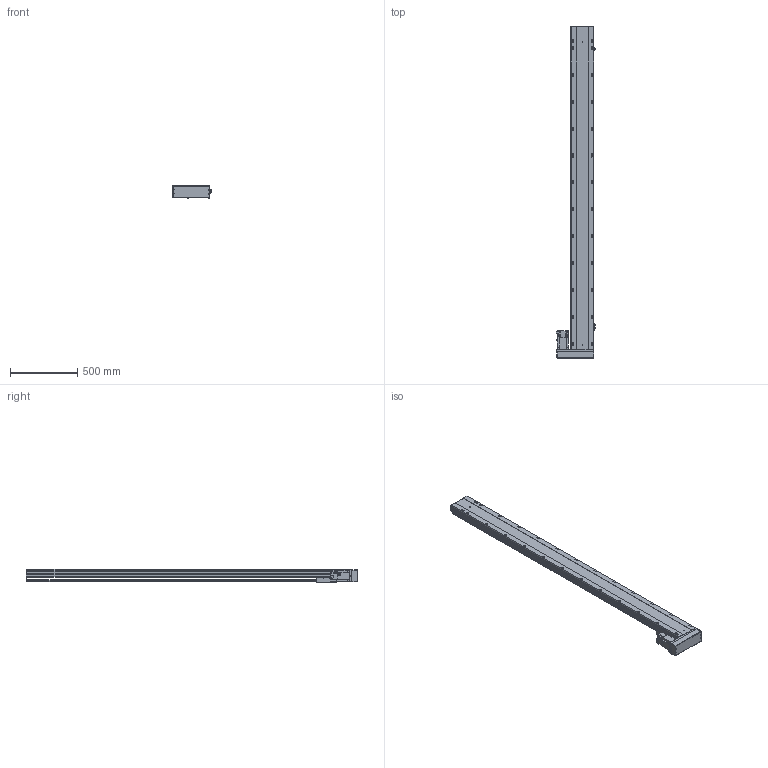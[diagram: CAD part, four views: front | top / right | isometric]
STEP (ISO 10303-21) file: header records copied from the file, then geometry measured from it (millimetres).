
FILE_DESCRIPTION (( 'STEP AP203' ), '1' );
FILE_NAME ('26.STEP', '2020-08-19T05:56:17', ( 'CXY' ), ( 'BOTI' ), 'SwSTEP 2.0', 'SolidWorks 2016', '' );
FILE_SCHEMA (( 'CONFIG_CONTROL_DESIGN' ));
Length unit declared in the file: millimetre
Products named in the file (15): BTH17M-BL-T75; BTH17M-BL-HZ; BTH17M-BL-04; 26; BTH17M-BL-菁釱; BTH17M-BL-01; BTH17M-BL-02
Assembly tree (8 placements, depth 2):
  BTH17M-BL-T75
  BTH17M-BL-04
  BTH17M-BL-04
  26
    BTH17M-BL-菁釱
    BTH17M-BL-01
    BTH17M-BL-02
    BTH17M-BL-04  x3
    BTH17M-BL-T75
    BTH17M-BL-HZ
  BTH17M-BL-菁釱
Bounding box: 293 x 2469 x 97 mm (x, y, z)
Volume: 16747979.5 mm3; surface area: 2744255.5 mm2
Topology: 12 solids, 12 shells, 1132 faces, 3066 edges, 1999 vertices
Faces by surface type: plane 734, cylinder 334, cone 44, bspline 20
Full cylindrical faces by diameter (mm): 3.3 x4, 4.5 x14, 5 x10, 6 x10, 6.5 x4, 6.8 x26, 7.5 x4, 8 x6, 9 x26, 10 x4, 13.5 x26, 19 x1, 36 x1, 70 x1
Entity records: 29211 total; most frequent: CARTESIAN_POINT 6216, DIRECTION 4348, ORIENTED_EDGE 4324, EDGE_CURVE 2162, VERTEX_POINT 1494, VECTOR 1472, LINE 1472, AXIS2_PLACEMENT_3D 1438
